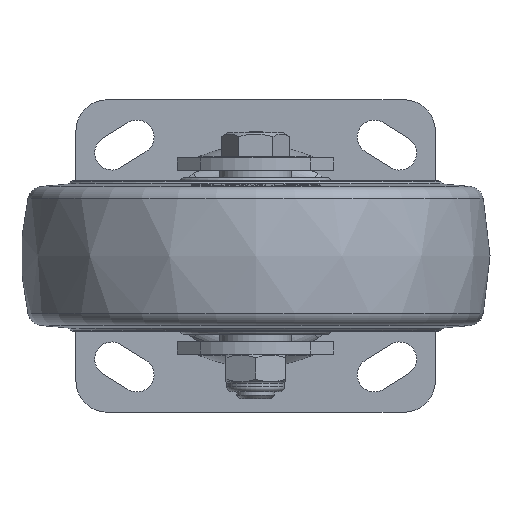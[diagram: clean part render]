
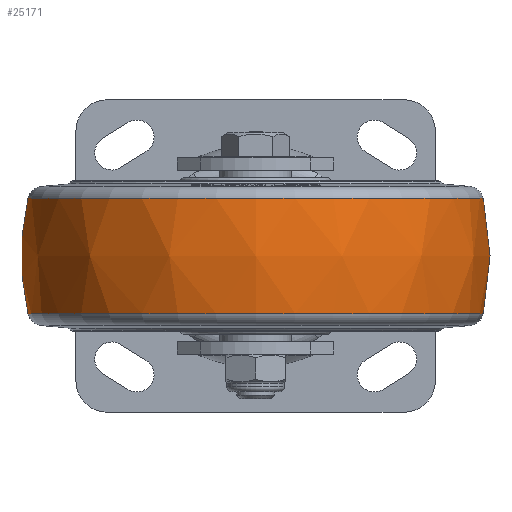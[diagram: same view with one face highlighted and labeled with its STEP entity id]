
A CAD part, front view. The second image highlights one B-rep face of the part: STEP entity #25171.
In plain terms, the highlighted free-form (B-spline) face has degree [2, 2] with [3, 9] control points.
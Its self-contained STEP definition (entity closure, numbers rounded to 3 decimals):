
#107=(
BOUNDED_SURFACE()
B_SPLINE_SURFACE(2,2,((#45836,#45837,#45838,#45839,#45840,#45841,#45842,
#45843,#45844),(#45845,#45846,#45847,#45848,#45849,#45850,#45851,#45852,
#45853),(#45854,#45855,#45856,#45857,#45858,#45859,#45860,#45861,#45862)),
 .UNSPECIFIED.,.F.,.T.,.F.)
B_SPLINE_SURFACE_WITH_KNOTS((3,3),(3,2,2,2,3),(-0.233,0.233),
(-3.142,-1.571,0.,1.571,3.142),
 .UNSPECIFIED.)
GEOMETRIC_REPRESENTATION_ITEM()
RATIONAL_B_SPLINE_SURFACE(((1.,0.707,1.,0.707,1.,
0.707,1.,0.707,1.),(0.973,0.688,
0.973,0.688,0.973,0.688,
0.973,0.688,0.973),(1.,0.707,
1.,0.707,1.,0.707,1.,0.707,1.)))
REPRESENTATION_ITEM('')
SURFACE()
);
#4241=FACE_OUTER_BOUND('',#5871,.T.);
#5871=EDGE_LOOP('',(#21944,#21945,#21946,#21947));
#9623=CIRCLE('',#26509,72.847);
#9624=CIRCLE('',#26510,72.847);
#9625=CIRCLE('',#26511,80.);
#11966=VERTEX_POINT('',#45833);
#11967=VERTEX_POINT('',#45863);
#15323=EDGE_CURVE('',#11966,#11966,#9623,.T.);
#15324=EDGE_CURVE('',#11967,#11967,#9624,.T.);
#15325=EDGE_CURVE('',#11967,#11966,#9625,.T.);
#21944=ORIENTED_EDGE('',*,*,#15324,.F.);
#21945=ORIENTED_EDGE('',*,*,#15325,.T.);
#21946=ORIENTED_EDGE('',*,*,#15323,.F.);
#21947=ORIENTED_EDGE('',*,*,#15325,.F.);
#25171=ADVANCED_FACE('',(#4241),#107,.F.);
#26509=AXIS2_PLACEMENT_3D('',#45835,#30317,#30318);
#26510=AXIS2_PLACEMENT_3D('',#45864,#30319,#30320);
#26511=AXIS2_PLACEMENT_3D('',#45865,#30321,#30322);
#30317=DIRECTION('center_axis',(0.,0.,
-1.));
#30318=DIRECTION('ref_axis',(0.,1.,0.));
#30319=DIRECTION('center_axis',(0.,0.,
1.));
#30320=DIRECTION('ref_axis',(0.,1.,0.));
#30321=DIRECTION('center_axis',(0.,-1.,0.));
#30322=DIRECTION('ref_axis',(-1.,0.,0.));
#45833=CARTESIAN_POINT('',(-72.847,-115.,-18.435));
#45835=CARTESIAN_POINT('Origin',(0.,-115.,-18.435));
#45836=CARTESIAN_POINT('Ctrl Pts',(-72.847,-115.,18.435));
#45837=CARTESIAN_POINT('Ctrl Pts',(-72.847,-42.153,
18.435));
#45838=CARTESIAN_POINT('Ctrl Pts',(0.,-42.153,
18.435));
#45839=CARTESIAN_POINT('Ctrl Pts',(72.847,-42.153,18.435));
#45840=CARTESIAN_POINT('Ctrl Pts',(72.847,-115.,18.435));
#45841=CARTESIAN_POINT('Ctrl Pts',(72.847,-187.847,18.435));
#45842=CARTESIAN_POINT('Ctrl Pts',(0.,-187.847,
18.435));
#45843=CARTESIAN_POINT('Ctrl Pts',(-72.847,-187.847,
18.435));
#45844=CARTESIAN_POINT('Ctrl Pts',(-72.847,-115.,18.435));
#45845=CARTESIAN_POINT('Ctrl Pts',(-77.213,-115.,0.));
#45846=CARTESIAN_POINT('Ctrl Pts',(-77.213,-37.787,
0.));
#45847=CARTESIAN_POINT('Ctrl Pts',(0.,-37.787,
0.));
#45848=CARTESIAN_POINT('Ctrl Pts',(77.213,-37.787,0.));
#45849=CARTESIAN_POINT('Ctrl Pts',(77.213,-115.,0.));
#45850=CARTESIAN_POINT('Ctrl Pts',(77.213,-192.213,0.));
#45851=CARTESIAN_POINT('Ctrl Pts',(0.,-192.213,
0.));
#45852=CARTESIAN_POINT('Ctrl Pts',(-77.213,-192.213,
0.));
#45853=CARTESIAN_POINT('Ctrl Pts',(-77.213,-115.,0.));
#45854=CARTESIAN_POINT('Ctrl Pts',(-72.847,-115.,-18.435));
#45855=CARTESIAN_POINT('Ctrl Pts',(-72.847,-42.153,
-18.435));
#45856=CARTESIAN_POINT('Ctrl Pts',(0.,-42.153,
-18.435));
#45857=CARTESIAN_POINT('Ctrl Pts',(72.847,-42.153,-18.435));
#45858=CARTESIAN_POINT('Ctrl Pts',(72.847,-115.,-18.435));
#45859=CARTESIAN_POINT('Ctrl Pts',(72.847,-187.847,-18.435));
#45860=CARTESIAN_POINT('Ctrl Pts',(0.,-187.847,
-18.435));
#45861=CARTESIAN_POINT('Ctrl Pts',(-72.847,-187.847,
-18.435));
#45862=CARTESIAN_POINT('Ctrl Pts',(-72.847,-115.,-18.435));
#45863=CARTESIAN_POINT('',(-72.847,-115.,18.435));
#45864=CARTESIAN_POINT('Origin',(0.,-115.,18.435));
#45865=CARTESIAN_POINT('Origin',(5.,-115.,0.));
